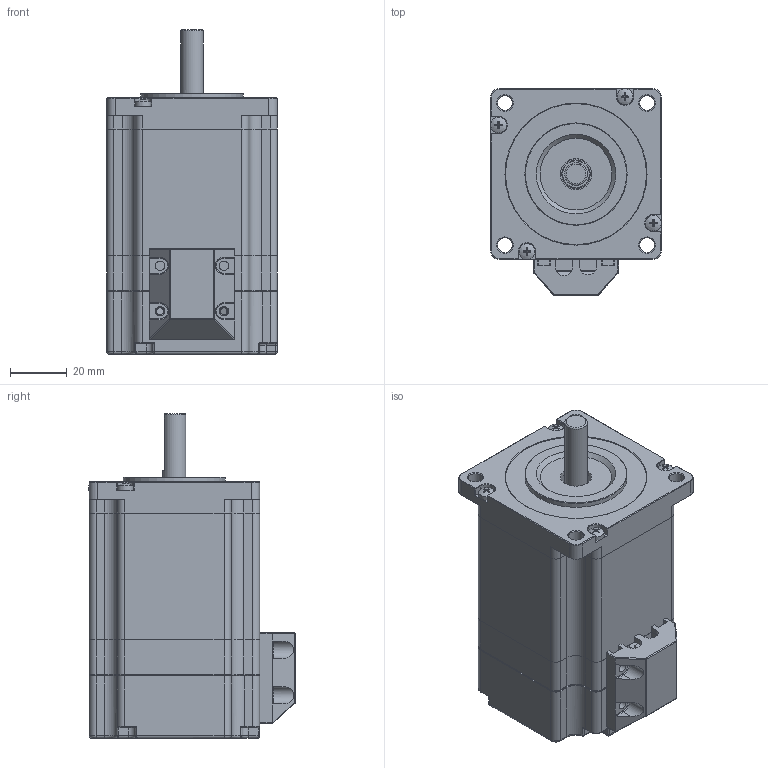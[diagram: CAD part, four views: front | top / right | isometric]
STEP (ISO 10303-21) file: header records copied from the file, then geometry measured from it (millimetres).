
FILE_DESCRIPTION (( 'STEP AP203' ), '1' );
FILE_NAME ('YK260EC65E1.STEP', '2018-10-11T03:27:46', ( '' ), ( '' ), 'SwSTEP 2.0', 'SolidWorks 2014', '' );
FILE_SCHEMA (( 'CONFIG_CONTROL_DESIGN' ));
Length unit declared in the file: millimetre
Products named in the file (18): YK260萇儂晤鎢ん欶; YK260EC 坋趼羞攫芛蹟隊; 260萇儂萇擢揤啣; YK260EC 隅赽; YK260EC65E1; YK260EC 粣; YK260EC 綴裔; YK260EC ヶ裔
Assembly tree (10 placements, depth 2):
  YK260萇儂晤鎢ん欶
  YK260EC 坋趼羞攫芛蹟隊
  YK260EC 坋趼羞攫芛蹟隊
  260萇儂萇擢揤啣
  YK260EC 坋趼羞攫芛蹟隊
Bounding box: 60.1 x 72.55 x 114.3 mm (x, y, z)
Volume: 164209.6 mm3; surface area: 74781.1 mm2
Topology: 10 solids, 10 shells, 1563 faces, 3419 edges, 1882 vertices
Faces by surface type: cone 972, plane 307, cylinder 216, torus 47, bspline 13, sphere 8
Full cylindrical faces by diameter (mm): 2.5 x6, 2.598 x4, 3 x4, 3.2 x8, 3.3 x4, 5.2 x4, 5.6 x4, 8 x2, 10 x1, 11 x2, 22 x2, 26 x2, 36 x1, 39 x3, 39.6 x2, 50 x1, 55 x1
Entity records: 23255 total; most frequent: CARTESIAN_POINT 4319, DIRECTION 3767, ORIENTED_EDGE 3136, EDGE_CURVE 1568, AXIS2_PLACEMENT_3D 1483, EDGE_LOOP 1165, VERTEX_POINT 1099, FACE_OUTER_BOUND 846
